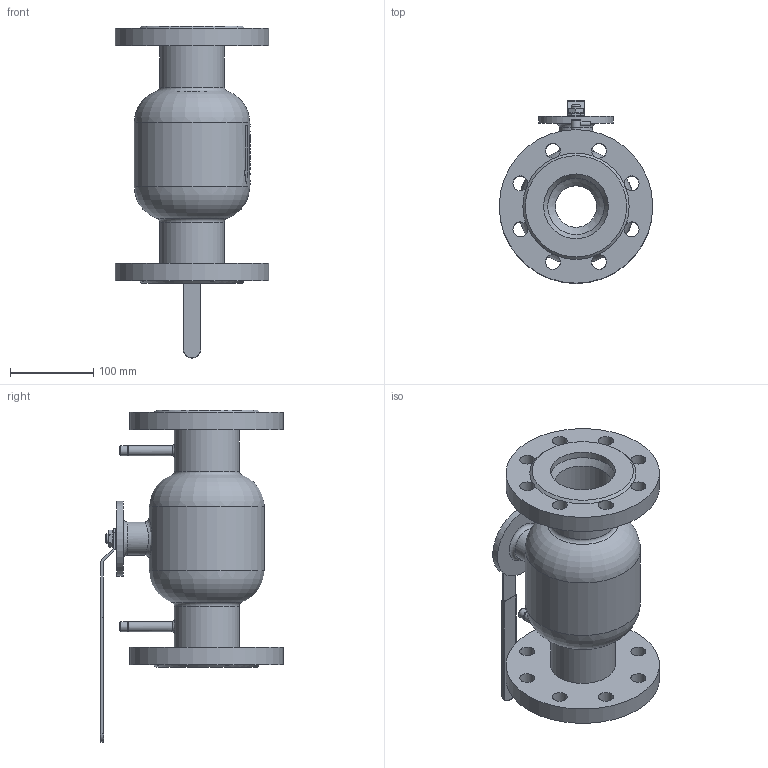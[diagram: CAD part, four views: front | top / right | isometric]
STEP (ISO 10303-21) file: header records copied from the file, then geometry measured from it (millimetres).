
FILE_DESCRIPTION(('STEP AP214'), '1');
FILE_NAME('BVR3232P-SP-F-H Êðàí øàðîâîé ðåãóëèðóþùèé DN.ru Äó65 Ðó16', '', ('UNSPECIFIED'), ('UNSPECIFIED'), 'C3D Converter', 'C3D Toolkit', '');
FILE_SCHEMA(('AUTOMOTIVE_DESIGN { 1 0 10303 214 3 1 1}'));
Length unit declared in the file: millimetre
Products named in the file (1): BVR3232P-SP-F-H
Bounding box: 185 x 220.5 x 400 mm (x, y, z)
Volume: 2827786.5 mm3; surface area: 324612.3 mm2
Topology: 1 solids, 1 shells, 712 faces, 1877 edges, 1243 vertices
Faces by surface type: plane 330, bspline 182, cylinder 96, extrusion 82, cone 13, torus 9
Full cylindrical faces by diameter (mm): 2.5 x2, 5 x2, 12 x6, 18 x16, 40 x1, 50 x1, 68 x2, 78 x4, 86 x1, 90 x1, 139 x1, 185 x2
Entity records: 78565 total; most frequent: CARTESIAN_POINT 61608, ORIENTED_EDGE 3632, DIRECTION 2390, EDGE_CURVE 1816, VERTEX_POINT 1247, VECTOR 910, EDGE_LOOP 883, LINE 828
